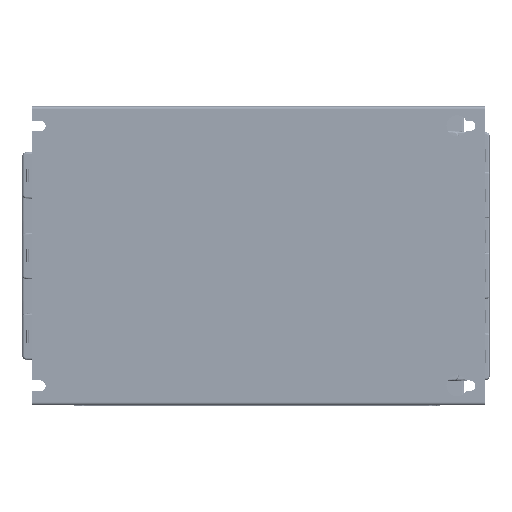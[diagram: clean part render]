
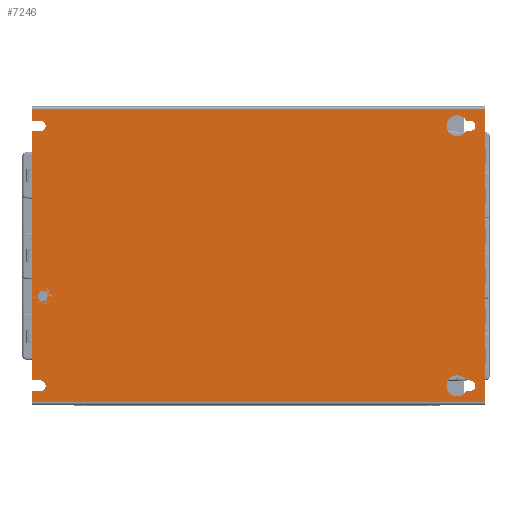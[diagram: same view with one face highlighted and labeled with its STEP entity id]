
A CAD part, top view. The second image highlights one B-rep face of the part: STEP entity #7246.
In plain terms, the highlighted planar face has unit normal (0, 0, 1).
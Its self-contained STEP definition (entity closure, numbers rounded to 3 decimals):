
#169=DIRECTION('',(1.,0.,0.));
#170=VECTOR('',#169,278.505);
#171=CARTESIAN_POINT('',(-31.,-85.3,72.));
#172=LINE('',#171,#170);
#567=DIRECTION('',(1.,0.,0.));
#568=VECTOR('',#567,5.);
#569=CARTESIAN_POINT('',(-31.,88.25,72.));
#570=LINE('',#569,#568);
#589=DIRECTION('',(-1.,0.,0.));
#590=VECTOR('',#589,278.505);
#591=CARTESIAN_POINT('',(247.505,95.3,72.));
#592=LINE('',#591,#590);
#1831=DIRECTION('',(0.,1.,0.));
#1832=VECTOR('',#1831,180.6);
#1833=CARTESIAN_POINT('',(247.505,-85.3,72.));
#1834=LINE('',#1833,#1832);
#1839=DIRECTION('',(0.,1.,0.));
#1840=VECTOR('',#1839,7.05);
#1841=CARTESIAN_POINT('',(-31.,88.25,72.));
#1842=LINE('',#1841,#1840);
#1843=DIRECTION('',(0.,1.,0.));
#1844=VECTOR('',#1843,7.05);
#1845=CARTESIAN_POINT('',(-31.,-85.3,72.));
#1846=LINE('',#1845,#1844);
#1847=DIRECTION('',(1.,0.,0.));
#1848=VECTOR('',#1847,5.);
#1849=CARTESIAN_POINT('',(-31.,-78.25,72.));
#1850=LINE('',#1849,#1848);
#1851=CARTESIAN_POINT('',(-26.,-75.,72.));
#1852=DIRECTION('',(0.,0.,1.));
#1853=DIRECTION('',(0.,-1.,0.));
#1854=AXIS2_PLACEMENT_3D('',#1851,#1852,#1853);
#1856=DIRECTION('',(0.,1.,0.));
#1857=VECTOR('',#1856,153.5);
#1858=CARTESIAN_POINT('',(-31.,-71.75,72.));
#1859=LINE('',#1858,#1857);
#1860=DIRECTION('',(1.,0.,0.));
#1861=VECTOR('',#1860,5.);
#1862=CARTESIAN_POINT('',(-31.,81.75,72.));
#1863=LINE('',#1862,#1861);
#1864=CARTESIAN_POINT('',(-26.,85.,72.));
#1865=DIRECTION('',(0.,0.,1.));
#1866=DIRECTION('',(0.,-1.,0.));
#1867=AXIS2_PLACEMENT_3D('',#1864,#1865,#1866);
#1869=DIRECTION('',(-1.,0.,0.));
#1870=VECTOR('',#1869,2.371);
#1871=CARTESIAN_POINT('',(238.505,-71.75,72.));
#1872=LINE('',#1871,#1870);
#1873=CARTESIAN_POINT('',(230.505,-75.,72.));
#1874=DIRECTION('',(0.,0.,1.));
#1875=DIRECTION('',(0.866,0.5,0.));
#1876=AXIS2_PLACEMENT_3D('',#1873,#1874,#1875);
#1878=CARTESIAN_POINT('',(230.505,-75.,72.));
#1879=DIRECTION('',(0.,0.,1.));
#1880=DIRECTION('',(0.,1.,0.));
#1881=AXIS2_PLACEMENT_3D('',#1878,#1879,#1880);
#1883=CARTESIAN_POINT('',(230.505,-75.,72.));
#1884=DIRECTION('',(0.,0.,1.));
#1885=DIRECTION('',(-0.866,-0.5,0.));
#1886=AXIS2_PLACEMENT_3D('',#1883,#1884,#1885);
#1888=CARTESIAN_POINT('',(230.505,-75.,72.));
#1889=DIRECTION('',(0.,0.,1.));
#1890=DIRECTION('',(0.,-1.,0.));
#1891=AXIS2_PLACEMENT_3D('',#1888,#1889,#1890);
#1893=DIRECTION('',(1.,0.,0.));
#1894=VECTOR('',#1893,2.371);
#1895=CARTESIAN_POINT('',(236.134,-78.25,72.));
#1896=LINE('',#1895,#1894);
#1897=CARTESIAN_POINT('',(238.505,-75.,72.));
#1898=DIRECTION('',(0.,0.,1.));
#1899=DIRECTION('',(0.,-1.,0.));
#1900=AXIS2_PLACEMENT_3D('',#1897,#1898,#1899);
#1902=DIRECTION('',(-1.,0.,0.));
#1903=VECTOR('',#1902,2.371);
#1904=CARTESIAN_POINT('',(238.505,88.25,72.));
#1905=LINE('',#1904,#1903);
#1906=CARTESIAN_POINT('',(230.505,85.,72.));
#1907=DIRECTION('',(0.,0.,1.));
#1908=DIRECTION('',(0.866,0.5,0.));
#1909=AXIS2_PLACEMENT_3D('',#1906,#1907,#1908);
#1911=CARTESIAN_POINT('',(230.505,85.,72.));
#1912=DIRECTION('',(0.,0.,1.));
#1913=DIRECTION('',(0.,1.,0.));
#1914=AXIS2_PLACEMENT_3D('',#1911,#1912,#1913);
#1916=CARTESIAN_POINT('',(230.505,85.,72.));
#1917=DIRECTION('',(0.,0.,1.));
#1918=DIRECTION('',(-0.866,-0.5,0.));
#1919=AXIS2_PLACEMENT_3D('',#1916,#1917,#1918);
#1921=CARTESIAN_POINT('',(230.505,85.,72.));
#1922=DIRECTION('',(0.,0.,1.));
#1923=DIRECTION('',(0.,-1.,0.));
#1924=AXIS2_PLACEMENT_3D('',#1921,#1922,#1923);
#1926=DIRECTION('',(1.,0.,0.));
#1927=VECTOR('',#1926,2.371);
#1928=CARTESIAN_POINT('',(236.134,81.75,72.));
#1929=LINE('',#1928,#1927);
#1930=CARTESIAN_POINT('',(238.505,85.,72.));
#1931=DIRECTION('',(0.,0.,1.));
#1932=DIRECTION('',(0.,-1.,0.));
#1933=AXIS2_PLACEMENT_3D('',#1930,#1931,#1932);
#1935=CARTESIAN_POINT('',(-24.5,-19.8,72.));
#1936=DIRECTION('',(0.,0.,1.));
#1937=DIRECTION('',(-1.,0.,0.));
#1938=AXIS2_PLACEMENT_3D('',#1935,#1936,#1937);
#1940=CARTESIAN_POINT('',(-24.5,-19.8,72.));
#1941=DIRECTION('',(0.,0.,1.));
#1942=DIRECTION('',(1.,0.,0.));
#1943=AXIS2_PLACEMENT_3D('',#1940,#1941,#1942);
#1973=DIRECTION('',(1.,0.,0.));
#1974=VECTOR('',#1973,5.);
#1975=CARTESIAN_POINT('',(-31.,-71.75,72.));
#1976=LINE('',#1975,#1974);
#2862=CARTESIAN_POINT('',(247.505,-85.3,72.));
#2863=VERTEX_POINT('',#2862);
#2866=CARTESIAN_POINT('',(-31.,-85.3,72.));
#2867=VERTEX_POINT('',#2866);
#2996=CARTESIAN_POINT('',(-31.,88.25,72.));
#2997=VERTEX_POINT('',#2996);
#2998=CARTESIAN_POINT('',(-26.,88.25,72.));
#2999=VERTEX_POINT('',#2998);
#3000=CARTESIAN_POINT('',(-31.,95.3,72.));
#3001=VERTEX_POINT('',#3000);
#3006=CARTESIAN_POINT('',(247.505,95.3,72.));
#3008=VERTEX_POINT('',#3006);
#3349=CARTESIAN_POINT('',(-31.,-78.25,72.));
#3350=VERTEX_POINT('',#3349);
#3351=CARTESIAN_POINT('',(-26.,-78.25,72.));
#3352=VERTEX_POINT('',#3351);
#3353=CARTESIAN_POINT('',(-26.,-71.75,72.));
#3354=VERTEX_POINT('',#3353);
#3355=CARTESIAN_POINT('',(-31.,-71.75,72.));
#3356=VERTEX_POINT('',#3355);
#3357=CARTESIAN_POINT('',(-31.,81.75,72.));
#3358=VERTEX_POINT('',#3357);
#3359=CARTESIAN_POINT('',(-26.,81.75,72.));
#3360=VERTEX_POINT('',#3359);
#3361=CARTESIAN_POINT('',(238.505,-71.75,72.));
#3362=CARTESIAN_POINT('',(236.134,-71.75,72.));
#3363=VERTEX_POINT('',#3361);
#3364=VERTEX_POINT('',#3362);
#3365=CARTESIAN_POINT('',(230.505,-68.5,72.));
#3366=VERTEX_POINT('',#3365);
#3367=CARTESIAN_POINT('',(224.875,-78.25,72.));
#3368=VERTEX_POINT('',#3367);
#3369=CARTESIAN_POINT('',(230.505,-81.5,72.));
#3370=VERTEX_POINT('',#3369);
#3371=CARTESIAN_POINT('',(236.134,-78.25,72.));
#3372=VERTEX_POINT('',#3371);
#3373=CARTESIAN_POINT('',(238.505,-78.25,72.));
#3374=VERTEX_POINT('',#3373);
#3375=CARTESIAN_POINT('',(238.505,88.25,72.));
#3376=CARTESIAN_POINT('',(236.134,88.25,72.));
#3377=VERTEX_POINT('',#3375);
#3378=VERTEX_POINT('',#3376);
#3379=CARTESIAN_POINT('',(230.505,91.5,72.));
#3380=VERTEX_POINT('',#3379);
#3381=CARTESIAN_POINT('',(224.875,81.75,72.));
#3382=VERTEX_POINT('',#3381);
#3383=CARTESIAN_POINT('',(230.505,78.5,72.));
#3384=VERTEX_POINT('',#3383);
#3385=CARTESIAN_POINT('',(236.134,81.75,72.));
#3386=VERTEX_POINT('',#3385);
#3387=CARTESIAN_POINT('',(238.505,81.75,72.));
#3388=VERTEX_POINT('',#3387);
#3389=CARTESIAN_POINT('',(-27.5,-19.8,72.));
#3390=CARTESIAN_POINT('',(-21.5,-19.8,72.));
#3391=VERTEX_POINT('',#3389);
#3392=VERTEX_POINT('',#3390);
#7182=CARTESIAN_POINT('',(0.,0.,72.));
#7183=DIRECTION('',(0.,0.,1.));
#7184=DIRECTION('',(1.,0.,0.));
#7185=AXIS2_PLACEMENT_3D('',#7182,#7183,#7184);
#7186=PLANE('',#7185);
#7187=ORIENTED_EDGE('',*,*,#4423,.F.);
#7188=ORIENTED_EDGE('',*,*,#4446,.T.);
#7189=ORIENTED_EDGE('',*,*,#4487,.F.);
#7190=ORIENTED_EDGE('',*,*,#7167,.F.);
#7191=ORIENTED_EDGE('',*,*,#3718,.F.);
#7193=ORIENTED_EDGE('',*,*,#7192,.T.);
#7195=ORIENTED_EDGE('',*,*,#7194,.T.);
#7197=ORIENTED_EDGE('',*,*,#7196,.T.);
#7199=ORIENTED_EDGE('',*,*,#7198,.F.);
#7201=ORIENTED_EDGE('',*,*,#7200,.T.);
#7203=ORIENTED_EDGE('',*,*,#7202,.T.);
#7205=ORIENTED_EDGE('',*,*,#7204,.T.);
#7206=EDGE_LOOP('',(#7187,#7188,#7189,#7190,#7191,#7193,#7195,#7197,#7199,#7201,
#7203,#7205));
#7207=FACE_OUTER_BOUND('',#7206,.F.);
#7209=ORIENTED_EDGE('',*,*,#7208,.T.);
#7211=ORIENTED_EDGE('',*,*,#7210,.T.);
#7213=ORIENTED_EDGE('',*,*,#7212,.T.);
#7215=ORIENTED_EDGE('',*,*,#7214,.T.);
#7217=ORIENTED_EDGE('',*,*,#7216,.T.);
#7219=ORIENTED_EDGE('',*,*,#7218,.T.);
#7221=ORIENTED_EDGE('',*,*,#7220,.T.);
#7222=EDGE_LOOP('',(#7209,#7211,#7213,#7215,#7217,#7219,#7221));
#7223=FACE_BOUND('',#7222,.F.);
#7225=ORIENTED_EDGE('',*,*,#7224,.T.);
#7227=ORIENTED_EDGE('',*,*,#7226,.T.);
#7229=ORIENTED_EDGE('',*,*,#7228,.T.);
#7231=ORIENTED_EDGE('',*,*,#7230,.T.);
#7233=ORIENTED_EDGE('',*,*,#7232,.T.);
#7235=ORIENTED_EDGE('',*,*,#7234,.T.);
#7237=ORIENTED_EDGE('',*,*,#7236,.T.);
#7238=EDGE_LOOP('',(#7225,#7227,#7229,#7231,#7233,#7235,#7237));
#7239=FACE_BOUND('',#7238,.F.);
#7241=ORIENTED_EDGE('',*,*,#7240,.T.);
#7243=ORIENTED_EDGE('',*,*,#7242,.T.);
#7244=EDGE_LOOP('',(#7241,#7243));
#7245=FACE_BOUND('',#7244,.F.);
#7246=ADVANCED_FACE('',(#7207,#7223,#7239,#7245),#7186,.T.);
#1855=CIRCLE('',#1854,3.25);
#1868=CIRCLE('',#1867,3.25);
#1877=CIRCLE('',#1876,6.5);
#1882=CIRCLE('',#1881,6.5);
#1887=CIRCLE('',#1886,6.5);
#1892=CIRCLE('',#1891,6.5);
#1901=CIRCLE('',#1900,3.25);
#1910=CIRCLE('',#1909,6.5);
#1915=CIRCLE('',#1914,6.5);
#1920=CIRCLE('',#1919,6.5);
#1925=CIRCLE('',#1924,6.5);
#1934=CIRCLE('',#1933,3.25);
#1939=CIRCLE('',#1938,3.);
#1944=CIRCLE('',#1943,3.);
#3718=EDGE_CURVE('',#2867,#2863,#172,.T.);
#4423=EDGE_CURVE('',#2997,#2999,#570,.T.);
#4446=EDGE_CURVE('',#2997,#3001,#1842,.T.);
#4487=EDGE_CURVE('',#3008,#3001,#592,.T.);
#7167=EDGE_CURVE('',#2863,#3008,#1834,.T.);
#7192=EDGE_CURVE('',#2867,#3350,#1846,.T.);
#7194=EDGE_CURVE('',#3350,#3352,#1850,.T.);
#7196=EDGE_CURVE('',#3352,#3354,#1855,.T.);
#7198=EDGE_CURVE('',#3356,#3354,#1976,.T.);
#7200=EDGE_CURVE('',#3356,#3358,#1859,.T.);
#7202=EDGE_CURVE('',#3358,#3360,#1863,.T.);
#7204=EDGE_CURVE('',#3360,#2999,#1868,.T.);
#7208=EDGE_CURVE('',#3363,#3364,#1872,.T.);
#7210=EDGE_CURVE('',#3364,#3366,#1877,.T.);
#7212=EDGE_CURVE('',#3366,#3368,#1882,.T.);
#7214=EDGE_CURVE('',#3368,#3370,#1887,.T.);
#7216=EDGE_CURVE('',#3370,#3372,#1892,.T.);
#7218=EDGE_CURVE('',#3372,#3374,#1896,.T.);
#7220=EDGE_CURVE('',#3374,#3363,#1901,.T.);
#7224=EDGE_CURVE('',#3377,#3378,#1905,.T.);
#7226=EDGE_CURVE('',#3378,#3380,#1910,.T.);
#7228=EDGE_CURVE('',#3380,#3382,#1915,.T.);
#7230=EDGE_CURVE('',#3382,#3384,#1920,.T.);
#7232=EDGE_CURVE('',#3384,#3386,#1925,.T.);
#7234=EDGE_CURVE('',#3386,#3388,#1929,.T.);
#7236=EDGE_CURVE('',#3388,#3377,#1934,.T.);
#7240=EDGE_CURVE('',#3391,#3392,#1939,.T.);
#7242=EDGE_CURVE('',#3392,#3391,#1944,.T.);
